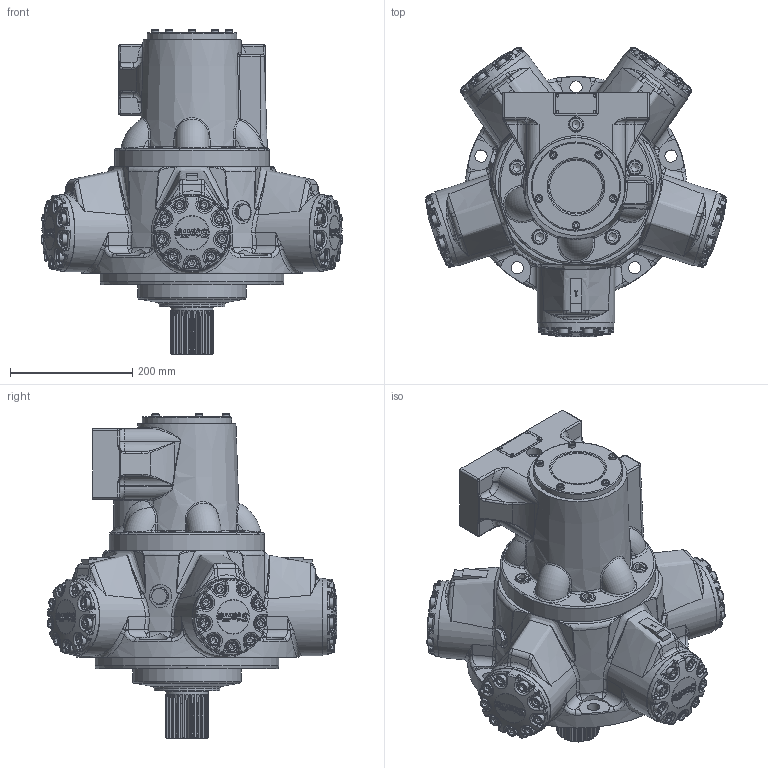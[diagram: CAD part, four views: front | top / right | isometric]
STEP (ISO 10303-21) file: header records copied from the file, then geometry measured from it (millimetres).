
FILE_DESCRIPTION(/* description */ (''),/* implementation_level */ '2;1');
FILE_NAME(/* name */ 'HMB080_Z_SFM4_71.stp',/* time_stamp */ '2025-12-08T16:22:45Z',/* author */ ('ccallanga'),/* organization */ (''),/* preprocessor_version */ 'ST-DEVELOPER v20',/* originating_system */ 'Autodesk Inventor 2024',/* authorisation */ '');
FILE_SCHEMA (('AUTOMOTIVE_DESIGN { 1 0 10303 214 3 1 1 }'));
Products named in the file (1): HMB060-80 Web Assembly_Simplify_1
Bounding box: 494.24 x 473.71 x 530.82 mm (x, y, z)
Volume: 29126016.7 mm3; surface area: 891556.2 mm2
Topology: 1 solids, 1 shells, 5134 faces, 12382 edges, 7253 vertices
Faces by surface type: bspline 1830, plane 1325, cylinder 1086, torus 547, sphere 198, cone 148
Full cylindrical faces by diameter (mm): 5 x4, 8.376 x2, 11.328 x1, 11.913 x5, 12.7 x5, 13.835 x8, 16 x55, 16.5 x45, 16.51 x1, 17 x10, 20 x5, 23.825 x5, 25.4 x5, 26.92 x2, 38 x2, 38.1 x3, 69.4 x1, 69.825 x1, 73.914 x1, 88.901 x1, 107.95 x1, 127 x5, 146.05 x1, 177.8 x1, 254 x1, 301.535 x1
Entity records: 243472 total; most frequent: CARTESIAN_POINT 132937, ORIENTED_EDGE 24292, DIRECTION 18047, EDGE_CURVE 12146, VERTEX_POINT 7253, AXIS2_PLACEMENT_3D 7105, EDGE_LOOP 5383, STYLED_ITEM 5135
